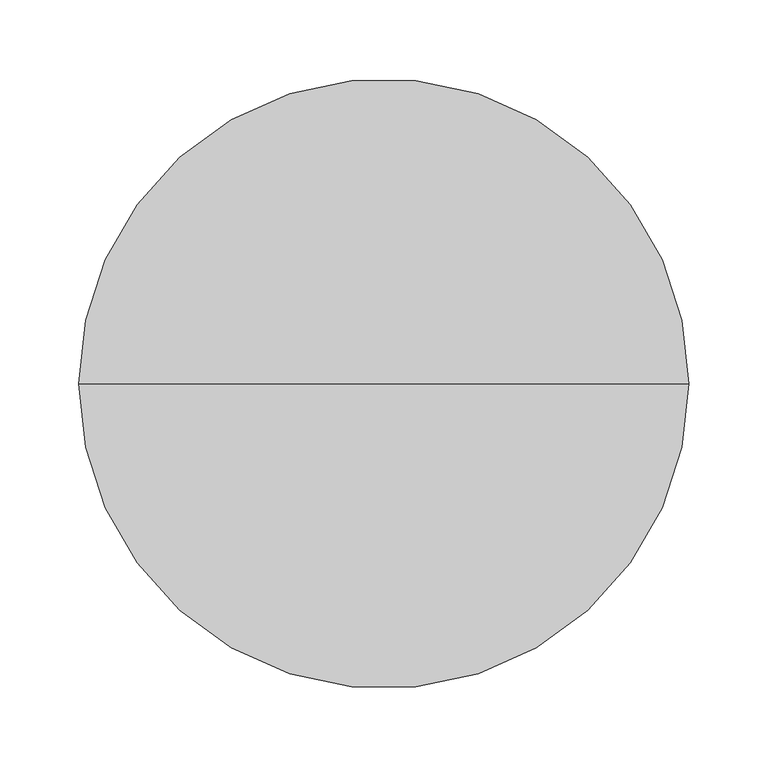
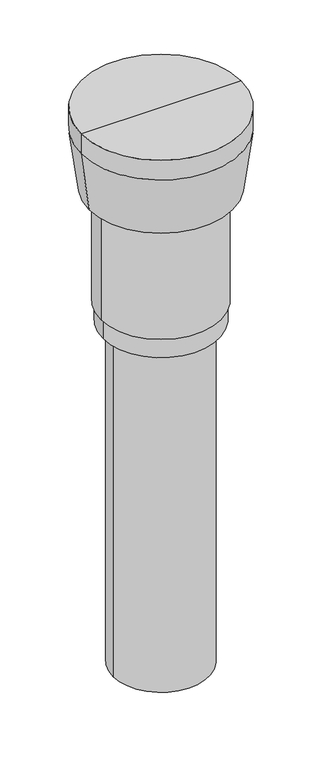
"""IFC4 building model written with IfcOpenShell, lengths in millimetres: air terminal geometry, NLRS_57_AIR_WPB_EASYAIR roof ventilation terminals_M&G : EPS Black, ø200 - L=1410mm."""

from ifc_helpers import new_model, si_unit, frame, origin, place, context, project, spatial, polyline, circle_curve, source, transform, mapped, element, save
from ifc_brep_helpers import plane_surface, cylinder_surface, revolved_surface, advanced_brep


def air_terminal_e25ee4aa(model_context):
    return source(origin(), model_context, "Body", "AdvancedBrep", [
        advanced_brep(
        [(115.5, 0.0, -920.0), (-115.5, 0.0, -920.0), (-115.5, 0.0, -50.0), (115.5, 0.0, -50.0), (0.0, 0.0, -920.0), (0.0, 0.0, -50.0)],
        [
            (0, 1, circle_curve(frame((0.0, 0.0, -920.0), z_axis=(0.0, 0.0, 1.0), x_axis=(-1.0, 0.0, 0.0)), 115.5)),
            (1, 2),
            (2, 3, circle_curve(frame((0.0, 0.0, -50.0), z_axis=(0.0, 0.0, -1.0), x_axis=(-1.0, 0.0, 0.0)), 115.5)),
            (3, 0),
            (1, 0, circle_curve(frame((0.0, 0.0, -920.0), z_axis=(0.0, 0.0, 1.0), x_axis=(-1.0, 0.0, 0.0)), 115.5)),
            (3, 2, circle_curve(frame((0.0, 0.0, -50.0), z_axis=(0.0, 0.0, -1.0), x_axis=(-1.0, 0.0, 0.0)), 115.5)),
            (4, 1),
            (0, 4),
            (2, 5),
            (5, 3),
        ],
        [
            cylinder_surface(frame((0.0, 0.0, 2183.3150031), z_axis=(0.0, 0.0, -1.0), x_axis=(-1.0, 0.0, 0.0)), 115.5),
            plane_surface(frame((0.0, 0.0, -920.0), z_axis=(0.0, 0.0, -1.0), x_axis=(-1.0, 0.0, 0.0))),
            plane_surface(frame((0.0, 0.0, -50.0), z_axis=(0.0, 0.0, 1.0), x_axis=(-1.0, 0.0, 0.0))),
        ],
        [
            (0, [[1, 2, 3, 4]]),
            (0, [[5, -4, 6, -2]]),
            (1, [[7, -1, 8]]),
            (1, [[-8, -5, -7]]),
            (2, [[-3, 9, 10]]),
            (2, [[-6, -10, -9]]),
        ],
    ),
        advanced_brep(
        [(193.0, 0.0, 490.0), (-193.0, 0.0, 490.0), (0.0, 0.0, 490.0), (140.0, 0.0, -50.0), (-140.0, 0.0, -50.0), (-140.0, 0.0, 0.0), (140.0, 0.0, 0.0), (0.0, 0.0, -50.0), (193.0, 0.0, 440.0), (-193.0, 0.0, 440.0), (173.0, 0.0, 290.0), (-173.0, 0.0, 290.0), (145.0, 0.0, 0.0), (-145.0, 0.0, 0.0), (-145.0, 0.0, 290.0), (145.0, 0.0, 290.0)],
        [
            (0, 1, circle_curve(frame((0.0, 0.0, 490.0), z_axis=(0.0, 0.0, 1.0), x_axis=(-1.0, 0.0, 0.0)), 193.0)),
            (1, 2),
            (2, 0),
            (1, 0, circle_curve(frame((0.0, 0.0, 490.0), z_axis=(0.0, 0.0, 1.0), x_axis=(-1.0, 0.0, 0.0)), 193.0)),
            (3, 4, circle_curve(frame((0.0, 0.0, -50.0), z_axis=(0.0, 0.0, 1.0), x_axis=(-1.0, 0.0, 0.0)), 140.0)),
            (4, 5),
            (5, 6, circle_curve(frame((0.0, 0.0, 0.0), z_axis=(0.0, 0.0, -1.0), x_axis=(-1.0, 0.0, 0.0)), 140.0)),
            (6, 3),
            (4, 3, circle_curve(frame((0.0, 0.0, -50.0), z_axis=(0.0, 0.0, 1.0), x_axis=(-1.0, 0.0, 0.0)), 140.0)),
            (6, 5, circle_curve(frame((0.0, 0.0, 0.0), z_axis=(0.0, 0.0, -1.0), x_axis=(-1.0, 0.0, 0.0)), 140.0)),
            (7, 4),
            (3, 7),
            (8, 9, circle_curve(frame((0.0, 0.0, 440.0), z_axis=(0.0, 0.0, 1.0), x_axis=(-1.0, 0.0, 0.0)), 193.0)),
            (9, 1),
            (0, 8),
            (9, 8, circle_curve(frame((0.0, 0.0, 440.0), z_axis=(0.0, 0.0, 1.0), x_axis=(-1.0, 0.0, 0.0)), 193.0)),
            (10, 11, circle_curve(frame((0.0, 0.0, 290.0), z_axis=(0.0, 0.0, 1.0), x_axis=(-1.0, 0.0, 0.0)), 173.0)),
            (11, 9),
            (8, 10),
            (11, 10, circle_curve(frame((0.0, 0.0, 290.0), z_axis=(0.0, 0.0, 1.0), x_axis=(-1.0, 0.0, 0.0)), 173.0)),
            (12, 13, circle_curve(frame((0.0, 0.0, 0.0), z_axis=(0.0, 0.0, 1.0), x_axis=(-1.0, 0.0, 0.0)), 145.0)),
            (13, 14),
            (14, 15, circle_curve(frame((0.0, 0.0, 290.0), z_axis=(0.0, 0.0, -1.0), x_axis=(-1.0, 0.0, 0.0)), 145.0)),
            (15, 12),
            (13, 12, circle_curve(frame((0.0, 0.0, 0.0), z_axis=(0.0, 0.0, 1.0), x_axis=(-1.0, 0.0, 0.0)), 145.0)),
            (15, 14, circle_curve(frame((0.0, 0.0, 290.0), z_axis=(0.0, 0.0, -1.0), x_axis=(-1.0, 0.0, 0.0)), 145.0)),
            (14, 11),
            (10, 15),
            (5, 13),
            (12, 6),
        ],
        [
            plane_surface(frame((0.0, 0.0, 490.0), z_axis=(0.0, 0.0, 1.0), x_axis=(-1.0, 0.0, 0.0))),
            cylinder_surface(frame((0.0, 0.0, 2237.3150031), z_axis=(0.0, 0.0, -1.0), x_axis=(-1.0, 0.0, 0.0)), 140.0),
            plane_surface(frame((0.0, 0.0, -50.0), z_axis=(0.0, 0.0, -1.0), x_axis=(-1.0, 0.0, 0.0))),
            cylinder_surface(frame((0.0, 0.0, 2237.3150031), z_axis=(0.0, 0.0, -1.0), x_axis=(-1.0, 0.0, 0.0)), 193.0),
            revolved_surface(polyline([(-193.0, 0.0, 440.0), (-173.0, 0.0, 290.0)]), (0.0, 0.0, 2237.3150031), (0.0, 0.0, -1.0)),
            cylinder_surface(frame((0.0, 0.0, 2237.3150031), z_axis=(0.0, 0.0, -1.0), x_axis=(-1.0, 0.0, 0.0)), 145.0),
            plane_surface(frame((0.0, 0.0, 290.0), z_axis=(0.0, 0.0, -1.0), x_axis=(-1.0, 0.0, 0.0))),
            plane_surface(frame((0.0, 0.0, 0.0), z_axis=(0.0, 0.0, -1.0), x_axis=(-1.0, 0.0, 0.0))),
        ],
        [
            (0, [[1, 2, 3]]),
            (0, [[4, -3, -2]]),
            (1, [[5, 6, 7, 8]]),
            (1, [[9, -8, 10, -6]]),
            (2, [[11, -5, 12]]),
            (2, [[-12, -9, -11]]),
            (3, [[13, 14, -1, 15]]),
            (3, [[16, -15, -4, -14]]),
            (4, [[17, 18, -13, 19]]),
            (4, [[20, -19, -16, -18]]),
            (5, [[21, 22, 23, 24]]),
            (5, [[25, -24, 26, -22]]),
            (6, [[-23, 27, -17, 28]]),
            (6, [[-26, -28, -20, -27]]),
            (7, [[-7, 29, -21, 30]]),
            (7, [[-10, -30, -25, -29]]),
        ],
    ),
    ])


if __name__ == "__main__":
    model = new_model("IFC4")
    model_context = context("Model", 3, world=origin())
    ifc_project = project(units=[si_unit("LENGTHUNIT", "METRE", prefix="MILLI")], contexts=[model_context])
    site = spatial("IfcSite", under=ifc_project)
    building = spatial("IfcBuilding", under=site)
    placement = place(None, origin())
    air_terminal_shape = air_terminal_e25ee4aa(model_context)
    element("IfcAirTerminal", 1, ObjectType="NLRS_57_AIR_WPB_EASYAIR roof ventilation terminals_M&G : EPS Black, ø200 - L=1410mm", at=placement, inside=building, context=model_context, shape_type="MappedRepresentation", body=[
        mapped(air_terminal_shape, transform((0.0, 0.0, 0.0), x_axis=(1.0, 0.0, 0.0), y_axis=(0.0, 1.0, 0.0), z_axis=(0.0, 0.0, 1.0))),
    ])
    save(model, "model.ifc")
